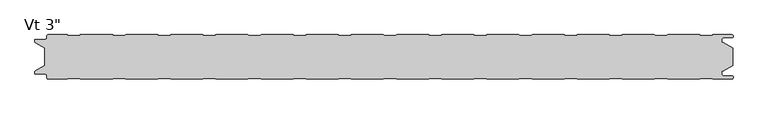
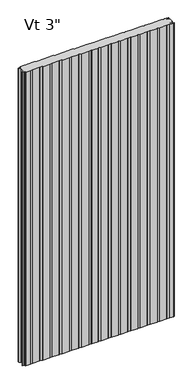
"""IFC4 building model written with IfcOpenShell, lengths in millimetres: plate geometry."""

from ifc_helpers import new_model, si_unit, frame, origin, place, context, project, spatial, polyline, circle_curve, source, transform, mapped, element, save
from ifc_brep_helpers import plane_surface, cylinder_surface, revolved_surface, advanced_brep


def plate_9c2f475c(model_context):
    return source(origin(), model_context, "Body", "AdvancedBrep", [
        advanced_brep(
        [(521.5205195, -74.0088405, 2400.0), (541.3035142, -74.0088405, 2400.0), (542.3760351, -75.1999956, 2400.0), (574.5475652, -75.1999956, 2400.0), (576.5248337, -73.2227271, 2400.0), (576.5248337, -72.1806285, 2400.0), (574.5475652, -70.20336, 2400.0), (560.3591802, -70.20336, 2400.0), (557.7713036, -67.6154835, 2400.0), (557.7713036, -63.2950653, 2400.0), (557.1628365, -62.7060718, 2400.0), (554.7857432, -62.7060718, 2400.0), (554.7857432, -61.7065979, 2400.0), (560.2280123, -61.7065979, 2400.0), (576.2625, -52.4490821, 2400.0), (576.2625, -23.7509179, 2400.0), (560.2280123, -14.4934021, 2400.0), (554.7857432, -14.4934021, 2400.0), (554.7857432, -13.4939282, 2400.0), (557.1628365, -13.4939282, 2400.0), (557.7713036, -12.9049347, 2400.0), (557.7713036, -8.5845165, 2400.0), (560.3591802, -5.99664, 2400.0), (574.5475652, -5.99664, 2400.0), (576.5248337, -4.0193715, 2400.0), (576.5248337, -2.9772729, 2400.0), (574.5475652, -1.0000044, 2400.0), (542.3760351, -1.0000044, 2400.0), (541.3035142, -2.1911595, 2400.0), (521.5205195, -2.1911595, 2400.0), (520.4479947, -1.0, 2400.0), (466.7534187, -1.0, 2400.0), (465.6808939, -2.1911595, 2400.0), (445.8978992, -2.1911595, 2400.0), (444.8253744, -1.0, 2400.0), (391.1307985, -1.0, 2400.0), (390.0582736, -2.1911595, 2400.0), (370.275279, -2.1911595, 2400.0), (369.2027541, -1.0, 2400.0), (315.5081782, -1.0, 2400.0), (314.4356534, -2.1911595, 2400.0), (294.6526587, -2.1911595, 2400.0), (293.5801339, -1.0, 2400.0), (239.885558, -1.0, 2400.0), (238.8130331, -2.1911595, 2400.0), (219.0300384, -2.1911595, 2400.0), (217.9575136, -1.0, 2400.0), (164.2629377, -1.0, 2400.0), (163.1904129, -2.1911595, 2400.0), (143.4074182, -2.1911595, 2400.0), (142.3348933, -1.0, 2400.0), (88.6403174, -1.0, 2400.0), (87.5677926, -2.1911595, 2400.0), (67.7847979, -2.1911595, 2400.0), (66.7122731, -1.0, 2400.0), (13.0176972, -1.0, 2400.0), (11.9451723, -2.1911595, 2400.0), (-7.8378224, -2.1911595, 2400.0), (-8.9103472, -1.0, 2400.0), (-62.6049231, -1.0, 2400.0), (-63.6774479, -2.1911595, 2400.0), (-83.4604426, -2.1911595, 2400.0), (-84.5329675, -1.0, 2400.0), (-138.2275434, -1.0, 2400.0), (-139.3000682, -2.1911595, 2400.0), (-159.0830629, -2.1911595, 2400.0), (-160.1555877, -1.0, 2400.0), (-213.8501636, -1.0, 2400.0), (-214.9226885, -2.1911595, 2400.0), (-234.7056831, -2.1911595, 2400.0), (-235.778208, -1.0, 2400.0), (-289.4727839, -1.0, 2400.0), (-290.5453087, -2.1911595, 2400.0), (-310.3283034, -2.1911595, 2400.0), (-311.4008282, -1.0, 2400.0), (-365.0954042, -1.0, 2400.0), (-366.167929, -2.1911595, 2400.0), (-385.9509237, -2.1911595, 2400.0), (-387.0234485, -1.0, 2400.0), (-440.7180244, -1.0, 2400.0), (-441.7905493, -2.1911595, 2400.0), (-461.5735439, -2.1911595, 2400.0), (-462.6460688, -1.0, 2400.0), (-516.3406447, -1.0, 2400.0), (-517.4131695, -2.1911595, 2400.0), (-537.1961642, -2.1911595, 2400.0), (-538.268689, -1.0000109, 2400.0), (-570.4352761, -1.0000109, 2400.0), (-572.4125501, -2.9772849, 2400.0), (-572.4125501, -5.2691749, 2400.0), (-576.3898173, -9.246442, 2400.0), (-591.9862417, -9.246442, 2400.0), (-592.5741186, -9.8343189, 2400.0), (-592.5741186, -12.9058679, 2400.0), (-591.986242, -13.4937446, 2400.0), (-589.6312064, -13.4937446, 2400.0), (-589.6312064, -14.4937446, 2400.0), (-591.9207851, -14.4937446, 2400.0), (-576.2625, -23.7509179, 2400.0), (-576.2625, -52.4490865, 2400.0), (-591.9207851, -61.7062554, 2400.0), (-589.6312064, -61.7062554, 2400.0), (-589.6312064, -62.7062554, 2400.0), (-591.986242, -62.7062554, 2400.0), (-592.5741186, -63.2941321, 2400.0), (-592.5741186, -66.3656811, 2400.0), (-591.9862417, -66.953558, 2400.0), (-576.3898173, -66.953558, 2400.0), (-572.4125501, -70.9308251, 2400.0), (-572.4125501, -73.2227151, 2400.0), (-570.4352761, -75.1999891, 2400.0), (-538.268689, -75.1999891, 2400.0), (-537.1961642, -74.0088405, 2400.0), (-517.4131695, -74.0088405, 2400.0), (-516.3406447, -75.2, 2400.0), (-462.6460688, -75.2, 2400.0), (-461.5735439, -74.0088405, 2400.0), (-441.7905493, -74.0088405, 2400.0), (-440.7180244, -75.2, 2400.0), (-387.0234485, -75.2, 2400.0), (-385.9509237, -74.0088405, 2400.0), (-366.167929, -74.0088405, 2400.0), (-365.0954042, -75.2, 2400.0), (-311.4008282, -75.2, 2400.0), (-310.3283034, -74.0088405, 2400.0), (-290.5453087, -74.0088405, 2400.0), (-289.4727839, -75.2, 2400.0), (-235.778208, -75.2, 2400.0), (-234.7056831, -74.0088405, 2400.0), (-214.9226885, -74.0088405, 2400.0), (-213.8501636, -75.2, 2400.0), (-160.1555877, -75.2, 2400.0), (-159.0830629, -74.0088405, 2400.0), (-139.3000682, -74.0088405, 2400.0), (-138.2275434, -75.2, 2400.0), (-84.5329675, -75.2, 2400.0), (-83.4604426, -74.0088405, 2400.0), (-63.6774479, -74.0088405, 2400.0), (-62.6049231, -75.2, 2400.0), (-8.9103472, -75.2, 2400.0), (-7.8378224, -74.0088405, 2400.0), (11.9451723, -74.0088405, 2400.0), (13.0176972, -75.2, 2400.0), (66.7122731, -75.2, 2400.0), (67.7847979, -74.0088405, 2400.0), (87.5677926, -74.0088405, 2400.0), (88.6403174, -75.2, 2400.0), (142.3348933, -75.2, 2400.0), (143.4074182, -74.0088405, 2400.0), (163.1904129, -74.0088405, 2400.0), (164.2629377, -75.2, 2400.0), (217.9575136, -75.2, 2400.0), (219.0300384, -74.0088405, 2400.0), (238.8130331, -74.0088405, 2400.0), (239.885558, -75.2, 2400.0), (293.5801339, -75.2, 2400.0), (294.6526587, -74.0088405, 2400.0), (314.4356534, -74.0088405, 2400.0), (315.5081782, -75.2, 2400.0), (369.2027541, -75.2, 2400.0), (370.275279, -74.0088405, 2400.0), (390.0582736, -74.0088405, 2400.0), (391.1307985, -75.2, 2400.0), (444.8253744, -75.2, 2400.0), (445.8978992, -74.0088405, 2400.0), (465.6808939, -74.0088405, 2400.0), (466.7534187, -75.2, 2400.0), (520.4479947, -75.2, 2400.0), (521.5205195, -74.0088405, 0.0), (520.4479947, -75.2, 0.0), (466.7534187, -75.2, 0.0), (465.6808939, -74.0088405, 0.0), (445.8978992, -74.0088405, 0.0), (444.8253744, -75.2, 0.0), (391.1307985, -75.2, 0.0), (390.0582736, -74.0088405, 0.0), (370.275279, -74.0088405, 0.0), (369.2027541, -75.2, 0.0), (315.5081782, -75.2, 0.0), (314.4356534, -74.0088405, 0.0), (294.6526587, -74.0088405, 0.0), (293.5801339, -75.2, 0.0), (239.885558, -75.2, 0.0), (238.8130331, -74.0088405, 0.0), (219.0300384, -74.0088405, 0.0), (217.9575136, -75.2, 0.0), (164.2629377, -75.2, 0.0), (163.1904129, -74.0088405, 0.0), (143.4074182, -74.0088405, 0.0), (142.3348933, -75.2, 0.0), (88.6403174, -75.2, 0.0), (87.5677926, -74.0088405, 0.0), (67.7847979, -74.0088405, 0.0), (66.7122731, -75.2, 0.0), (13.0176972, -75.2, 0.0), (11.9451723, -74.0088405, 0.0), (-7.8378224, -74.0088405, 0.0), (-8.9103472, -75.2, 0.0), (-62.6049231, -75.2, 0.0), (-63.6774479, -74.0088405, 0.0), (-83.4604426, -74.0088405, 0.0), (-84.5329675, -75.2, 0.0), (-138.2275434, -75.2, 0.0), (-139.3000682, -74.0088405, 0.0), (-159.0830629, -74.0088405, 0.0), (-160.1555877, -75.2, 0.0), (-213.8501636, -75.2, 0.0), (-214.9226885, -74.0088405, 0.0), (-234.7056831, -74.0088405, 0.0), (-235.778208, -75.2, 0.0), (-289.4727839, -75.2, 0.0), (-290.5453087, -74.0088405, 0.0), (-310.3283034, -74.0088405, 0.0), (-311.4008282, -75.2, 0.0), (-365.0954042, -75.2, 0.0), (-366.167929, -74.0088405, 0.0), (-385.9509237, -74.0088405, 0.0), (-387.0234485, -75.2, 0.0), (-440.7180244, -75.2, 0.0), (-441.7905493, -74.0088405, 0.0), (-461.5735439, -74.0088405, 0.0), (-462.6460688, -75.2, 0.0), (-516.3406447, -75.2, 0.0), (-517.4131695, -74.0088405, 0.0), (-537.1961642, -74.0088405, 0.0), (-538.268689, -75.1999891, 0.0), (-570.4352761, -75.1999891, 0.0), (-572.4125501, -73.2227151, 0.0), (-572.4125501, -70.9308251, 0.0), (-576.3898173, -66.953558, 0.0), (-591.9862417, -66.953558, 0.0), (-592.5741186, -66.3656811, 0.0), (-592.5741186, -63.2941321, 0.0), (-591.986242, -62.7062554, 0.0), (-589.6312064, -62.7062554, 0.0), (-589.6312064, -61.7062554, 0.0), (-591.9207851, -61.7062554, 0.0), (-576.2625, -52.4490821, 0.0), (-576.2625, -23.7509179, 0.0), (-591.9207851, -14.4937446, 0.0), (-589.6312064, -14.4937446, 0.0), (-589.6312064, -13.4937446, 0.0), (-591.986242, -13.4937446, 0.0), (-592.5741186, -12.9058679, 0.0), (-592.5741186, -9.8343189, 0.0), (-591.9862417, -9.246442, 0.0), (-576.3898173, -9.246442, 0.0), (-572.4125501, -5.2691749, 0.0), (-572.4125501, -2.9772849, 0.0), (-570.4352761, -1.0000109, 0.0), (-538.268689, -1.0000109, 0.0), (-537.1961642, -2.1911595, 0.0), (-517.4131695, -2.1911595, 0.0), (-516.3406447, -1.0, 0.0), (-462.6460688, -1.0, 0.0), (-461.5735439, -2.1911595, 0.0), (-441.7905493, -2.1911595, 0.0), (-440.7180244, -1.0, 0.0), (-387.0234485, -1.0, 0.0), (-385.9509237, -2.1911595, 0.0), (-366.167929, -2.1911595, 0.0), (-365.0954042, -1.0, 0.0), (-311.4008282, -1.0, 0.0), (-310.3283034, -2.1911595, 0.0), (-290.5453087, -2.1911595, 0.0), (-289.4727839, -1.0, 0.0), (-235.778208, -1.0, 0.0), (-234.7056831, -2.1911595, 0.0), (-214.9226885, -2.1911595, 0.0), (-213.8501636, -1.0, 0.0), (-160.1555877, -1.0, 0.0), (-159.0830629, -2.1911595, 0.0), (-139.3000682, -2.1911595, 0.0), (-138.2275434, -1.0, 0.0), (-84.5329675, -1.0, 0.0), (-83.4604426, -2.1911595, 0.0), (-63.6774479, -2.1911595, 0.0), (-62.6049231, -1.0, 0.0), (-8.9103472, -1.0, 0.0), (-7.8378224, -2.1911595, 0.0), (11.9451723, -2.1911595, 0.0), (13.0176972, -1.0, 0.0), (66.7122731, -1.0, 0.0), (67.7847979, -2.1911595, 0.0), (87.5677926, -2.1911595, 0.0), (88.6403174, -1.0, 0.0), (142.3348933, -1.0, 0.0), (143.4074182, -2.1911595, 0.0), (163.1904129, -2.1911595, 0.0), (164.2629377, -1.0, 0.0), (217.9575136, -1.0, 0.0), (219.0300384, -2.1911595, 0.0), (238.8130331, -2.1911595, 0.0), (239.885558, -1.0, 0.0), (293.5801339, -1.0, 0.0), (294.6526587, -2.1911595, 0.0), (314.4356534, -2.1911595, 0.0), (315.5081782, -1.0, 0.0), (369.2027541, -1.0, 0.0), (370.275279, -2.1911595, 0.0), (390.0582736, -2.1911595, 0.0), (391.1307985, -1.0, 0.0), (444.8253744, -1.0, 0.0), (445.8978992, -2.1911595, 0.0), (465.6808939, -2.1911595, 0.0), (466.7534187, -1.0, 0.0), (520.4479947, -1.0, 0.0), (521.5205195, -2.1911595, 0.0), (541.3035142, -2.1911595, 0.0), (542.3760351, -1.0000044, 0.0), (574.5475652, -1.0000044, 0.0), (576.5248337, -2.9772729, 0.0), (576.5248337, -4.0193715, 0.0), (574.5475652, -5.99664, 0.0), (560.3591802, -5.99664, 0.0), (557.7713036, -8.5845165, 0.0), (557.7713036, -12.9049347, 0.0), (557.1628365, -13.4939282, 0.0), (554.7857432, -13.4939282, 0.0), (554.7857432, -14.4934021, 0.0), (560.2280123, -14.4934021, 0.0), (576.2625, -23.7509179, 0.0), (576.2625, -52.4490865, 0.0), (560.2280123, -61.7065979, 0.0), (554.7857432, -61.7065979, 0.0), (554.7857432, -62.7060718, 0.0), (557.1628365, -62.7060718, 0.0), (557.7713036, -63.2950653, 0.0), (557.7713036, -67.6154835, 0.0), (560.3591802, -70.20336, 0.0), (574.5475652, -70.20336, 0.0), (576.5248337, -72.1806285, 0.0), (576.5248337, -73.2227271, 0.0), (574.5475652, -75.1999956, 0.0), (542.3760351, -75.1999956, 0.0), (541.3035142, -74.0088405, 0.0)],
        [
            (0, 1),
            (1, 2),
            (2, 3),
            (3, 4, circle_curve(frame((574.5475652, -73.2227271, 2400.0), z_axis=(0.0, 0.0, 1.0), x_axis=(-1.0, 0.0, 0.0)), 1.9772685)),
            (4, 5),
            (5, 6, circle_curve(frame((574.5475652, -72.1806285, 2400.0), z_axis=(0.0, 0.0, 1.0), x_axis=(-1.0, 0.0, 0.0)), 1.9772685)),
            (6, 7),
            (7, 8, circle_curve(frame((560.3591802, -67.6154835, 2400.0), z_axis=(0.0, 0.0, -1.0), x_axis=(-1.0, 0.0, 0.0)), 2.5878765)),
            (8, 9),
            (9, 10, circle_curve(frame((557.1819985, -63.2950653, 2400.0), z_axis=(0.0, 0.0, 1.0), x_axis=(-1.0, 0.0, 0.0)), 0.5893051)),
            (10, 11),
            (11, 12),
            (12, 13),
            (13, 14),
            (14, 15),
            (15, 16),
            (16, 17),
            (17, 18),
            (18, 19),
            (19, 20, circle_curve(frame((557.1819985, -12.9049347, 2400.0), z_axis=(0.0, 0.0, 1.0), x_axis=(0.0, 1.0, 0.0)), 0.5893051)),
            (20, 21),
            (21, 22, circle_curve(frame((560.3591802, -8.5845165, 2400.0), z_axis=(0.0, 0.0, -1.0), x_axis=(0.0, 1.0, 0.0)), 2.5878765)),
            (22, 23),
            (23, 24, circle_curve(frame((574.5475652, -4.0193715, 2400.0), z_axis=(0.0, 0.0, 1.0), x_axis=(0.0, 1.0, 0.0)), 1.9772685)),
            (24, 25),
            (25, 26, circle_curve(frame((574.5475652, -2.9772729, 2400.0), z_axis=(0.0, 0.0, 1.0), x_axis=(0.0, 1.0, 0.0)), 1.9772685)),
            (26, 27),
            (27, 28),
            (28, 29),
            (29, 30),
            (30, 31),
            (31, 32),
            (32, 33),
            (33, 34),
            (34, 35),
            (35, 36),
            (36, 37),
            (37, 38),
            (38, 39),
            (39, 40),
            (40, 41),
            (41, 42),
            (42, 43),
            (43, 44),
            (44, 45),
            (45, 46),
            (46, 47),
            (47, 48),
            (48, 49),
            (49, 50),
            (50, 51),
            (51, 52),
            (52, 53),
            (53, 54),
            (54, 55),
            (55, 56),
            (56, 57),
            (57, 58),
            (58, 59),
            (59, 60),
            (60, 61),
            (61, 62),
            (62, 63),
            (63, 64),
            (64, 65),
            (65, 66),
            (66, 67),
            (67, 68),
            (68, 69),
            (69, 70),
            (70, 71),
            (71, 72),
            (72, 73),
            (73, 74),
            (74, 75),
            (75, 76),
            (76, 77),
            (77, 78),
            (78, 79),
            (79, 80),
            (80, 81),
            (81, 82),
            (82, 83),
            (83, 84),
            (84, 85),
            (85, 86),
            (86, 87),
            (87, 88, circle_curve(frame((-570.4352761, -2.9772849, 2400.0), z_axis=(0.0, 0.0, 1.0), x_axis=(0.0, 1.0, 0.0)), 1.977274)),
            (88, 89),
            (89, 90, circle_curve(frame((-576.3898173, -5.2691749, 2400.0), z_axis=(0.0, 0.0, -1.0), x_axis=(0.0, 1.0, 0.0)), 3.9772671)),
            (90, 91),
            (91, 92, circle_curve(frame((-591.9862417, -9.8343189, 2400.0), z_axis=(0.0, 0.0, 1.0), x_axis=(0.0, 1.0, 0.0)), 0.5878769)),
            (92, 93),
            (93, 94, circle_curve(frame((-591.986242, -12.9058679, 2400.0), z_axis=(0.0, 0.0, 1.0), x_axis=(0.0, 1.0, 0.0)), 0.5878766)),
            (94, 95),
            (95, 96),
            (96, 97),
            (97, 98),
            (98, 99),
            (99, 100),
            (100, 101),
            (101, 102),
            (102, 103),
            (103, 104, circle_curve(frame((-591.986242, -63.2941321, 2400.0), z_axis=(0.0, 0.0, 1.0), x_axis=(-1.0, 0.0, 0.0)), 0.5878766)),
            (104, 105),
            (105, 106, circle_curve(frame((-591.9862417, -66.3656811, 2400.0), z_axis=(0.0, 0.0, 1.0), x_axis=(-1.0, 0.0, 0.0)), 0.5878769)),
            (106, 107),
            (107, 108, circle_curve(frame((-576.3898173, -70.9308251, 2400.0), z_axis=(0.0, 0.0, -1.0), x_axis=(-1.0, 0.0, 0.0)), 3.9772671)),
            (108, 109),
            (109, 110, circle_curve(frame((-570.4352761, -73.2227151, 2400.0), z_axis=(0.0, 0.0, 1.0), x_axis=(-1.0, 0.0, 0.0)), 1.977274)),
            (110, 111),
            (111, 112),
            (112, 113),
            (113, 114),
            (114, 115),
            (115, 116),
            (116, 117),
            (117, 118),
            (118, 119),
            (119, 120),
            (120, 121),
            (121, 122),
            (122, 123),
            (123, 124),
            (124, 125),
            (125, 126),
            (126, 127),
            (127, 128),
            (128, 129),
            (129, 130),
            (130, 131),
            (131, 132),
            (132, 133),
            (133, 134),
            (134, 135),
            (135, 136),
            (136, 137),
            (137, 138),
            (138, 139),
            (139, 140),
            (140, 141),
            (141, 142),
            (142, 143),
            (143, 144),
            (144, 145),
            (145, 146),
            (146, 147),
            (147, 148),
            (148, 149),
            (149, 150),
            (150, 151),
            (151, 152),
            (152, 153),
            (153, 154),
            (154, 155),
            (155, 156),
            (156, 157),
            (157, 158),
            (158, 159),
            (159, 160),
            (160, 161),
            (161, 162),
            (162, 163),
            (163, 164),
            (164, 165),
            (165, 166),
            (166, 167),
            (167, 0),
            (168, 169),
            (169, 170),
            (170, 171),
            (171, 172),
            (172, 173),
            (173, 174),
            (174, 175),
            (175, 176),
            (176, 177),
            (177, 178),
            (178, 179),
            (179, 180),
            (180, 181),
            (181, 182),
            (182, 183),
            (183, 184),
            (184, 185),
            (185, 186),
            (186, 187),
            (187, 188),
            (188, 189),
            (189, 190),
            (190, 191),
            (191, 192),
            (192, 193),
            (193, 194),
            (194, 195),
            (195, 196),
            (196, 197),
            (197, 198),
            (198, 199),
            (199, 200),
            (200, 201),
            (201, 202),
            (202, 203),
            (203, 204),
            (204, 205),
            (205, 206),
            (206, 207),
            (207, 208),
            (208, 209),
            (209, 210),
            (210, 211),
            (211, 212),
            (212, 213),
            (213, 214),
            (214, 215),
            (215, 216),
            (216, 217),
            (217, 218),
            (218, 219),
            (219, 220),
            (220, 221),
            (221, 222),
            (222, 223),
            (223, 224),
            (224, 225),
            (225, 226),
            (226, 227, circle_curve(frame((-570.4352761, -73.2227151, 0.0), z_axis=(0.0, 0.0, -1.0), x_axis=(-1.0, 0.0, 0.0)), 1.977274)),
            (227, 228),
            (228, 229, circle_curve(frame((-576.3898173, -70.9308251, 0.0), z_axis=(0.0, 0.0, 1.0), x_axis=(-1.0, 0.0, 0.0)), 3.9772671)),
            (229, 230),
            (230, 231, circle_curve(frame((-591.9862417, -66.3656811, 0.0), z_axis=(0.0, 0.0, -1.0), x_axis=(-1.0, 0.0, 0.0)), 0.5878769)),
            (231, 232),
            (232, 233, circle_curve(frame((-591.986242, -63.2941321, 0.0), z_axis=(0.0, 0.0, -1.0), x_axis=(-1.0, 0.0, 0.0)), 0.5878766)),
            (233, 234),
            (234, 235),
            (235, 236),
            (236, 237),
            (237, 238),
            (238, 239),
            (239, 240),
            (240, 241),
            (241, 242),
            (242, 243, circle_curve(frame((-591.986242, -12.9058679, 0.0), z_axis=(0.0, 0.0, -1.0), x_axis=(0.0, 1.0, 0.0)), 0.5878766)),
            (243, 244),
            (244, 245, circle_curve(frame((-591.9862417, -9.8343189, 0.0), z_axis=(0.0, 0.0, -1.0), x_axis=(0.0, 1.0, 0.0)), 0.5878769)),
            (245, 246),
            (246, 247, circle_curve(frame((-576.3898173, -5.2691749, 0.0), z_axis=(0.0, 0.0, 1.0), x_axis=(0.0, 1.0, 0.0)), 3.9772671)),
            (247, 248),
            (248, 249, circle_curve(frame((-570.4352761, -2.9772849, 0.0), z_axis=(0.0, 0.0, -1.0), x_axis=(0.0, 1.0, 0.0)), 1.977274)),
            (249, 250),
            (250, 251),
            (251, 252),
            (252, 253),
            (253, 254),
            (254, 255),
            (255, 256),
            (256, 257),
            (257, 258),
            (258, 259),
            (259, 260),
            (260, 261),
            (261, 262),
            (262, 263),
            (263, 264),
            (264, 265),
            (265, 266),
            (266, 267),
            (267, 268),
            (268, 269),
            (269, 270),
            (270, 271),
            (271, 272),
            (272, 273),
            (273, 274),
            (274, 275),
            (275, 276),
            (276, 277),
            (277, 278),
            (278, 279),
            (279, 280),
            (280, 281),
            (281, 282),
            (282, 283),
            (283, 284),
            (284, 285),
            (285, 286),
            (286, 287),
            (287, 288),
            (288, 289),
            (289, 290),
            (290, 291),
            (291, 292),
            (292, 293),
            (293, 294),
            (294, 295),
            (295, 296),
            (296, 297),
            (297, 298),
            (298, 299),
            (299, 300),
            (300, 301),
            (301, 302),
            (302, 303),
            (303, 304),
            (304, 305),
            (305, 306),
            (306, 307),
            (307, 308),
            (308, 309),
            (309, 310),
            (310, 311, circle_curve(frame((574.5475652, -2.9772729, 0.0), z_axis=(0.0, 0.0, -1.0), x_axis=(0.0, 1.0, 0.0)), 1.9772685)),
            (311, 312),
            (312, 313, circle_curve(frame((574.5475652, -4.0193715, 0.0), z_axis=(0.0, 0.0, -1.0), x_axis=(0.0, 1.0, 0.0)), 1.9772685)),
            (313, 314),
            (314, 315, circle_curve(frame((560.3591802, -8.5845165, 0.0), z_axis=(0.0, 0.0, 1.0), x_axis=(0.0, 1.0, 0.0)), 2.5878765)),
            (315, 316),
            (316, 317, circle_curve(frame((557.1819985, -12.9049347, 0.0), z_axis=(0.0, 0.0, -1.0), x_axis=(0.0, 1.0, 0.0)), 0.5893051)),
            (317, 318),
            (318, 319),
            (319, 320),
            (320, 321),
            (321, 322),
            (322, 323),
            (323, 324),
            (324, 325),
            (325, 326),
            (326, 327, circle_curve(frame((557.1819985, -63.2950653, 0.0), z_axis=(0.0, 0.0, -1.0), x_axis=(-1.0, 0.0, 0.0)), 0.5893051)),
            (327, 328),
            (328, 329, circle_curve(frame((560.3591802, -67.6154835, 0.0), z_axis=(0.0, 0.0, 1.0), x_axis=(-1.0, 0.0, 0.0)), 2.5878765)),
            (329, 330),
            (330, 331, circle_curve(frame((574.5475652, -72.1806285, 0.0), z_axis=(0.0, 0.0, -1.0), x_axis=(-1.0, 0.0, 0.0)), 1.9772685)),
            (331, 332),
            (332, 333, circle_curve(frame((574.5475652, -73.2227271, 0.0), z_axis=(0.0, 0.0, -1.0), x_axis=(-1.0, 0.0, 0.0)), 1.9772685)),
            (333, 334),
            (334, 335),
            (335, 168),
            (98, 238),
            (237, 99),
            (14, 322),
            (321, 15),
            (28, 308),
            (307, 29),
            (27, 309),
            (26, 310),
            (25, 311),
            (24, 312),
            (23, 313),
            (22, 314),
            (21, 315),
            (20, 316),
            (19, 317),
            (18, 318),
            (17, 319),
            (16, 320),
            (97, 239),
            (96, 240),
            (95, 241),
            (94, 242),
            (93, 243),
            (92, 244),
            (91, 245),
            (90, 246),
            (89, 247),
            (88, 248),
            (87, 249),
            (86, 250),
            (85, 251),
            (84, 252),
            (83, 253),
            (82, 254),
            (81, 255),
            (80, 256),
            (79, 257),
            (78, 258),
            (77, 259),
            (76, 260),
            (75, 261),
            (74, 262),
            (73, 263),
            (72, 264),
            (71, 265),
            (70, 266),
            (69, 267),
            (68, 268),
            (67, 269),
            (66, 270),
            (65, 271),
            (64, 272),
            (63, 273),
            (62, 274),
            (61, 275),
            (60, 276),
            (59, 277),
            (58, 278),
            (57, 279),
            (56, 280),
            (55, 281),
            (54, 282),
            (53, 283),
            (52, 284),
            (51, 285),
            (50, 286),
            (49, 287),
            (48, 288),
            (47, 289),
            (46, 290),
            (45, 291),
            (44, 292),
            (43, 293),
            (42, 294),
            (41, 295),
            (40, 296),
            (39, 297),
            (38, 298),
            (37, 299),
            (36, 300),
            (35, 301),
            (34, 302),
            (33, 303),
            (32, 304),
            (31, 305),
            (30, 306),
            (167, 169),
            (168, 0),
            (166, 170),
            (165, 171),
            (164, 172),
            (163, 173),
            (162, 174),
            (161, 175),
            (160, 176),
            (159, 177),
            (158, 178),
            (157, 179),
            (156, 180),
            (155, 181),
            (154, 182),
            (153, 183),
            (152, 184),
            (151, 185),
            (150, 186),
            (149, 187),
            (148, 188),
            (147, 189),
            (146, 190),
            (145, 191),
            (144, 192),
            (143, 193),
            (142, 194),
            (141, 195),
            (140, 196),
            (139, 197),
            (138, 198),
            (137, 199),
            (136, 200),
            (135, 201),
            (134, 202),
            (133, 203),
            (132, 204),
            (131, 205),
            (130, 206),
            (129, 207),
            (128, 208),
            (127, 209),
            (126, 210),
            (125, 211),
            (124, 212),
            (123, 213),
            (122, 214),
            (121, 215),
            (120, 216),
            (119, 217),
            (118, 218),
            (117, 219),
            (116, 220),
            (115, 221),
            (114, 222),
            (113, 223),
            (112, 224),
            (111, 225),
            (110, 226),
            (109, 227),
            (108, 228),
            (107, 229),
            (106, 230),
            (105, 231),
            (104, 232),
            (103, 233),
            (102, 234),
            (101, 235),
            (100, 236),
            (13, 323),
            (12, 324),
            (11, 325),
            (10, 326),
            (9, 327),
            (8, 328),
            (7, 329),
            (6, 330),
            (5, 331),
            (4, 332),
            (3, 333),
            (2, 334),
            (1, 335),
        ],
        [
            plane_surface(frame((0.0, -75.2, 2400.0), z_axis=(0.0, 0.0, 1.0), x_axis=(0.0, -1.0, 0.0))),
            plane_surface(frame((0.0, -75.2, 0.0), z_axis=(0.0, 0.0, -1.0), x_axis=(0.0, -1.0, 0.0))),
            plane_surface(frame((-576.2625, -52.4490865, 2400.0), z_axis=(-1.0, 0.0, 0.0), x_axis=(0.0, 0.0, -1.0))),
            plane_surface(frame((576.2625, -23.7509179, 2400.0), z_axis=(1.0, 0.0, 0.0), x_axis=(0.0, 0.0, -1.0))),
            plane_surface(frame((521.5205195, -2.1911595, 2400.0), z_axis=(0.0, 1.0, 0.0), x_axis=(0.0, 0.0, -1.0))),
            plane_surface(frame((541.3035142, -2.1911595, 2400.0), z_axis=(-0.7431448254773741, 0.6691306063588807, 0.0), x_axis=(0.0, 0.0, -1.0))),
            plane_surface(frame((542.3760351, -1.0000044, 2400.0), z_axis=(0.0, 1.0, 0.0), x_axis=(0.0, 0.0, -1.0))),
            cylinder_surface(frame((574.5475652, -2.9772729, 2400.0), z_axis=(0.0, 0.0, 1.0), x_axis=(0.0, 1.0, 0.0)), 1.9772685),
            plane_surface(frame((576.5248337, -2.9772729, 2400.0), z_axis=(1.0, 0.0, 0.0), x_axis=(0.0, 0.0, -1.0))),
            cylinder_surface(frame((574.5475652, -4.0193715, 2400.0), z_axis=(0.0, 0.0, 1.0), x_axis=(0.0, 1.0, 0.0)), 1.9772685),
            plane_surface(frame((574.5475652, -5.99664, 2400.0), z_axis=(0.0, -1.0, 0.0), x_axis=(0.0, 0.0, -1.0))),
            revolved_surface(polyline([(560.3591802, -5.996639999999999, 0.0), (560.3591802, -5.996639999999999, 2400.0)]), (560.3591802, -8.5845165, 2400.0), (0.0, 0.0, -1.0)),
            plane_surface(frame((557.7713036, -8.5845165, 2400.0), z_axis=(1.0, 0.0, 0.0), x_axis=(0.0, 0.0, -1.0))),
            cylinder_surface(frame((557.1819985, -12.9049347, 2400.0), z_axis=(0.0, 0.0, 1.0), x_axis=(0.0, 1.0, 0.0)), 0.5893051),
            plane_surface(frame((557.1628365, -13.4939282, 2400.0), z_axis=(0.0, -1.0, 0.0), x_axis=(0.0, 0.0, -1.0))),
            plane_surface(frame((554.7857432, -13.4939282, 2400.0), z_axis=(1.0, 0.0, 0.0), x_axis=(0.0, 0.0, -1.0))),
            plane_surface(frame((554.7857432, -14.4934021, 2400.0), z_axis=(0.0, 1.0, 0.0), x_axis=(0.0, 0.0, -1.0))),
            plane_surface(frame((560.2280123, -14.4934021, 2400.0), z_axis=(0.5000000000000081, 0.866025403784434, 0.0), x_axis=(0.0, 0.0, -1.0))),
            plane_surface(frame((-576.2625, -23.7509179, 2400.0), z_axis=(-0.5089147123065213, -0.860816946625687, 0.0), x_axis=(0.0, 0.0, -1.0))),
            plane_surface(frame((-591.9207851, -14.4937446, 2400.0), z_axis=(0.0, 1.0, 0.0), x_axis=(0.0, 0.0, -1.0))),
            plane_surface(frame((-589.6312064, -14.4937446, 2400.0), z_axis=(-1.0, 0.0, 0.0), x_axis=(0.0, 0.0, -1.0))),
            plane_surface(frame((-589.6312064, -13.4937446, 2400.0), z_axis=(0.0, -1.0, 0.0), x_axis=(0.0, 0.0, -1.0))),
            cylinder_surface(frame((-591.986242, -12.9058679, 2400.0), z_axis=(0.0, 0.0, 1.0), x_axis=(0.0, 1.0, 0.0)), 0.5878766),
            plane_surface(frame((-592.5741186, -12.9058679, 2400.0), z_axis=(-1.0, 0.0, 0.0), x_axis=(0.0, 0.0, -1.0))),
            cylinder_surface(frame((-591.9862417, -9.8343189, 2400.0), z_axis=(0.0, 0.0, 1.0), x_axis=(0.0, 1.0, 0.0)), 0.5878769),
            plane_surface(frame((-591.9862417, -9.246442, 2400.0), z_axis=(0.0, 1.0, 0.0), x_axis=(0.0, 0.0, -1.0))),
            revolved_surface(polyline([(-576.3898173, -1.2919078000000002, 0.0), (-576.3898173, -1.2919078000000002, 2400.0)]), (-576.3898173, -5.2691749, 2400.0), (0.0, 0.0, -1.0)),
            plane_surface(frame((-572.4125501, -5.2691749, 2400.0), z_axis=(-1.0, 0.0, 0.0), x_axis=(0.0, 0.0, -1.0))),
            cylinder_surface(frame((-570.4352761, -2.9772849, 2400.0), z_axis=(0.0, 0.0, 1.0), x_axis=(0.0, 1.0, 0.0)), 1.977274),
            plane_surface(frame((-570.4352761, -1.0000109, 2400.0), z_axis=(0.0, 1.0, 0.0), x_axis=(0.0, 0.0, -1.0))),
            plane_surface(frame((-538.268689, -1.0000109, 2400.0), z_axis=(0.7431417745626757, 0.669133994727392, 0.0), x_axis=(0.0, 0.0, -1.0))),
            plane_surface(frame((-537.1961642, -2.1911595, 2400.0), z_axis=(0.0, 1.0, 0.0), x_axis=(0.0, 0.0, -1.0))),
            plane_surface(frame((-517.4131695, -2.1911595, 2400.0), z_axis=(-0.7431448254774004, 0.6691306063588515, 0.0), x_axis=(0.0, 0.0, -1.0))),
            plane_surface(frame((-516.3406447, -1.0, 2400.0), z_axis=(0.0, 1.0, 0.0), x_axis=(0.0, 0.0, -1.0))),
            plane_surface(frame((-462.6460688, -1.0, 2400.0), z_axis=(0.7431448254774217, 0.6691306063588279, 0.0), x_axis=(0.0, 0.0, -1.0))),
            plane_surface(frame((-461.5735439, -2.1911595, 2400.0), z_axis=(0.0, 1.0, 0.0), x_axis=(0.0, 0.0, -1.0))),
            plane_surface(frame((-441.7905493, -2.1911595, 2400.0), z_axis=(-0.7431448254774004, 0.6691306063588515, 0.0), x_axis=(0.0, 0.0, -1.0))),
            plane_surface(frame((-440.7180244, -1.0, 2400.0), z_axis=(0.0, 1.0, 0.0), x_axis=(0.0, 0.0, -1.0))),
            plane_surface(frame((-387.0234485, -1.0, 2400.0), z_axis=(0.7431448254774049, 0.6691306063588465, 0.0), x_axis=(0.0, 0.0, -1.0))),
            plane_surface(frame((-385.9509237, -2.1911595, 2400.0), z_axis=(0.0, 1.0, 0.0), x_axis=(0.0, 0.0, -1.0))),
            plane_surface(frame((-366.167929, -2.1911595, 2400.0), z_axis=(-0.7431448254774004, 0.6691306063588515, 0.0), x_axis=(0.0, 0.0, -1.0))),
            plane_surface(frame((-365.0954042, -1.0, 2400.0), z_axis=(0.0, 1.0, 0.0), x_axis=(0.0, 0.0, -1.0))),
            plane_surface(frame((-311.4008282, -1.0, 2400.0), z_axis=(0.7431448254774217, 0.6691306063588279, 0.0), x_axis=(0.0, 0.0, -1.0))),
            plane_surface(frame((-310.3283034, -2.1911595, 2400.0), z_axis=(0.0, 1.0, 0.0), x_axis=(0.0, 0.0, -1.0))),
            plane_surface(frame((-290.5453087, -2.1911595, 2400.0), z_axis=(-0.7431448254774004, 0.6691306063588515, 0.0), x_axis=(0.0, 0.0, -1.0))),
            plane_surface(frame((-289.4727839, -1.0, 2400.0), z_axis=(0.0, 1.0, 0.0), x_axis=(0.0, 0.0, -1.0))),
            plane_surface(frame((-235.778208, -1.0, 2400.0), z_axis=(0.7431448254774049, 0.6691306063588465, 0.0), x_axis=(0.0, 0.0, -1.0))),
            plane_surface(frame((-234.7056831, -2.1911595, 2400.0), z_axis=(0.0, 1.0, 0.0), x_axis=(0.0, 0.0, -1.0))),
            plane_surface(frame((-214.9226885, -2.1911595, 2400.0), z_axis=(-0.7431448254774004, 0.6691306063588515, 0.0), x_axis=(0.0, 0.0, -1.0))),
            plane_surface(frame((-213.8501636, -1.0, 2400.0), z_axis=(0.0, 1.0, 0.0), x_axis=(0.0, 0.0, -1.0))),
            plane_surface(frame((-160.1555877, -1.0, 2400.0), z_axis=(0.7431448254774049, 0.6691306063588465, 0.0), x_axis=(0.0, 0.0, -1.0))),
            plane_surface(frame((-159.0830629, -2.1911595, 2400.0), z_axis=(0.0, 1.0, 0.0), x_axis=(0.0, 0.0, -1.0))),
            plane_surface(frame((-139.3000682, -2.1911595, 2400.0), z_axis=(-0.7431448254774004, 0.6691306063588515, 0.0), x_axis=(0.0, 0.0, -1.0))),
            plane_surface(frame((-138.2275434, -1.0, 2400.0), z_axis=(0.0, 1.0, 0.0), x_axis=(0.0, 0.0, -1.0))),
            plane_surface(frame((-84.5329675, -1.0, 2400.0), z_axis=(0.7431448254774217, 0.6691306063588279, 0.0), x_axis=(0.0, 0.0, -1.0))),
            plane_surface(frame((-83.4604426, -2.1911595, 2400.0), z_axis=(0.0, 1.0, 0.0), x_axis=(0.0, 0.0, -1.0))),
            plane_surface(frame((-63.6774479, -2.1911595, 2400.0), z_axis=(-0.7431448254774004, 0.6691306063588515, 0.0), x_axis=(0.0, 0.0, -1.0))),
            plane_surface(frame((-62.6049231, -1.0, 2400.0), z_axis=(0.0, 1.0, 0.0), x_axis=(0.0, 0.0, -1.0))),
            plane_surface(frame((-8.9103472, -1.0, 2400.0), z_axis=(0.7431448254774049, 0.6691306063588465, 0.0), x_axis=(0.0, 0.0, -1.0))),
            plane_surface(frame((-7.8378224, -2.1911595, 2400.0), z_axis=(0.0, 1.0, 0.0), x_axis=(0.0, 0.0, -1.0))),
            plane_surface(frame((11.9451723, -2.1911595, 2400.0), z_axis=(-0.7431448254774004, 0.6691306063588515, 0.0), x_axis=(0.0, 0.0, -1.0))),
            plane_surface(frame((13.0176972, -1.0, 2400.0), z_axis=(0.0, 1.0, 0.0), x_axis=(0.0, 0.0, -1.0))),
            plane_surface(frame((66.7122731, -1.0, 2400.0), z_axis=(0.7431448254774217, 0.6691306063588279, 0.0), x_axis=(0.0, 0.0, -1.0))),
            plane_surface(frame((67.7847979, -2.1911595, 2400.0), z_axis=(0.0, 1.0, 0.0), x_axis=(0.0, 0.0, -1.0))),
            plane_surface(frame((87.5677926, -2.1911595, 2400.0), z_axis=(-0.7431448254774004, 0.6691306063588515, 0.0), x_axis=(0.0, 0.0, -1.0))),
            plane_surface(frame((88.6403174, -1.0, 2400.0), z_axis=(0.0, 1.0, 0.0), x_axis=(0.0, 0.0, -1.0))),
            plane_surface(frame((142.3348933, -1.0, 2400.0), z_axis=(0.7431448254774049, 0.6691306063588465, 0.0), x_axis=(0.0, 0.0, -1.0))),
            plane_surface(frame((143.4074182, -2.1911595, 2400.0), z_axis=(0.0, 1.0, 0.0), x_axis=(0.0, 0.0, -1.0))),
            plane_surface(frame((163.1904129, -2.1911595, 2400.0), z_axis=(-0.7431448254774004, 0.6691306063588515, 0.0), x_axis=(0.0, 0.0, -1.0))),
            plane_surface(frame((164.2629377, -1.0, 2400.0), z_axis=(0.0, 1.0, 0.0), x_axis=(0.0, 0.0, -1.0))),
            plane_surface(frame((217.9575136, -1.0, 2400.0), z_axis=(0.7431448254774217, 0.6691306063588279, 0.0), x_axis=(0.0, 0.0, -1.0))),
            plane_surface(frame((219.0300384, -2.1911595, 2400.0), z_axis=(0.0, 1.0, 0.0), x_axis=(0.0, 0.0, -1.0))),
            plane_surface(frame((238.8130331, -2.1911595, 2400.0), z_axis=(-0.7431448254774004, 0.6691306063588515, 0.0), x_axis=(0.0, 0.0, -1.0))),
            plane_surface(frame((239.885558, -1.0, 2400.0), z_axis=(0.0, 1.0, 0.0), x_axis=(0.0, 0.0, -1.0))),
            plane_surface(frame((293.5801339, -1.0, 2400.0), z_axis=(0.7431448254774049, 0.6691306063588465, 0.0), x_axis=(0.0, 0.0, -1.0))),
            plane_surface(frame((294.6526587, -2.1911595, 2400.0), z_axis=(0.0, 1.0, 0.0), x_axis=(0.0, 0.0, -1.0))),
            plane_surface(frame((314.4356534, -2.1911595, 2400.0), z_axis=(-0.7431448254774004, 0.6691306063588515, 0.0), x_axis=(0.0, 0.0, -1.0))),
            plane_surface(frame((315.5081782, -1.0, 2400.0), z_axis=(0.0, 1.0, 0.0), x_axis=(0.0, 0.0, -1.0))),
            plane_surface(frame((369.2027541, -1.0, 2400.0), z_axis=(0.7431448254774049, 0.6691306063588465, 0.0), x_axis=(0.0, 0.0, -1.0))),
            plane_surface(frame((370.275279, -2.1911595, 2400.0), z_axis=(0.0, 1.0, 0.0), x_axis=(0.0, 0.0, -1.0))),
            plane_surface(frame((390.0582736, -2.1911595, 2400.0), z_axis=(-0.7431448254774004, 0.6691306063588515, 0.0), x_axis=(0.0, 0.0, -1.0))),
            plane_surface(frame((391.1307985, -1.0, 2400.0), z_axis=(0.0, 1.0, 0.0), x_axis=(0.0, 0.0, -1.0))),
            plane_surface(frame((444.8253744, -1.0, 2400.0), z_axis=(0.7431448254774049, 0.6691306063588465, 0.0), x_axis=(0.0, 0.0, -1.0))),
            plane_surface(frame((445.8978992, -2.1911595, 2400.0), z_axis=(0.0, 1.0, 0.0), x_axis=(0.0, 0.0, -1.0))),
            plane_surface(frame((465.6808939, -2.1911595, 2400.0), z_axis=(-0.7431448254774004, 0.6691306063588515, 0.0), x_axis=(0.0, 0.0, -1.0))),
            plane_surface(frame((466.7534187, -1.0, 2400.0), z_axis=(0.0, 1.0, 0.0), x_axis=(0.0, 0.0, -1.0))),
            plane_surface(frame((520.4479947, -1.0, 2400.0), z_axis=(0.7431448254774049, 0.6691306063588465, 0.0), x_axis=(0.0, 0.0, -1.0))),
            plane_surface(frame((521.5205195, -74.0088405, 2400.0), z_axis=(0.7431448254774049, -0.6691306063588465, 0.0), x_axis=(0.0, 0.0, -1.0))),
            plane_surface(frame((520.4479947, -75.2, 2400.0), z_axis=(0.0, -1.0, 0.0), x_axis=(0.0, 0.0, -1.0))),
            plane_surface(frame((466.7534187, -75.2, 2400.0), z_axis=(-0.7431448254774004, -0.6691306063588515, 0.0), x_axis=(0.0, 0.0, -1.0))),
            plane_surface(frame((465.6808939, -74.0088405, 2400.0), z_axis=(0.0, -1.0, 0.0), x_axis=(0.0, 0.0, -1.0))),
            plane_surface(frame((445.8978992, -74.0088405, 2400.0), z_axis=(0.7431448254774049, -0.6691306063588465, 0.0), x_axis=(0.0, 0.0, -1.0))),
            plane_surface(frame((444.8253744, -75.2, 2400.0), z_axis=(0.0, -1.0, 0.0), x_axis=(0.0, 0.0, -1.0))),
            plane_surface(frame((391.1307985, -75.2, 2400.0), z_axis=(-0.7431448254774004, -0.6691306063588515, 0.0), x_axis=(0.0, 0.0, -1.0))),
            plane_surface(frame((390.0582736, -74.0088405, 2400.0), z_axis=(0.0, -1.0, 0.0), x_axis=(0.0, 0.0, -1.0))),
            plane_surface(frame((370.275279, -74.0088405, 2400.0), z_axis=(0.7431448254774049, -0.6691306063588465, 0.0), x_axis=(0.0, 0.0, -1.0))),
            plane_surface(frame((369.2027541, -75.2, 2400.0), z_axis=(0.0, -1.0, 0.0), x_axis=(0.0, 0.0, -1.0))),
            plane_surface(frame((315.5081782, -75.2, 2400.0), z_axis=(-0.7431448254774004, -0.6691306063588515, 0.0), x_axis=(0.0, 0.0, -1.0))),
            plane_surface(frame((314.4356534, -74.0088405, 2400.0), z_axis=(0.0, -1.0, 0.0), x_axis=(0.0, 0.0, -1.0))),
            plane_surface(frame((294.6526587, -74.0088405, 2400.0), z_axis=(0.7431448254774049, -0.6691306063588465, 0.0), x_axis=(0.0, 0.0, -1.0))),
            plane_surface(frame((293.5801339, -75.2, 2400.0), z_axis=(0.0, -1.0, 0.0), x_axis=(0.0, 0.0, -1.0))),
            plane_surface(frame((239.885558, -75.2, 2400.0), z_axis=(-0.7431448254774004, -0.6691306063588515, 0.0), x_axis=(0.0, 0.0, -1.0))),
            plane_surface(frame((238.8130331, -74.0088405, 2400.0), z_axis=(0.0, -1.0, 0.0), x_axis=(0.0, 0.0, -1.0))),
            plane_surface(frame((219.0300384, -74.0088405, 2400.0), z_axis=(0.7431448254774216, -0.6691306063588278, 0.0), x_axis=(0.0, 0.0, -1.0))),
            plane_surface(frame((217.9575136, -75.2, 2400.0), z_axis=(0.0, -1.0, 0.0), x_axis=(0.0, 0.0, -1.0))),
            plane_surface(frame((164.2629377, -75.2, 2400.0), z_axis=(-0.7431448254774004, -0.6691306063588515, 0.0), x_axis=(0.0, 0.0, -1.0))),
            plane_surface(frame((163.1904129, -74.0088405, 2400.0), z_axis=(0.0, -1.0, 0.0), x_axis=(0.0, 0.0, -1.0))),
            plane_surface(frame((143.4074182, -74.0088405, 2400.0), z_axis=(0.7431448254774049, -0.6691306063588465, 0.0), x_axis=(0.0, 0.0, -1.0))),
            plane_surface(frame((142.3348933, -75.2, 2400.0), z_axis=(0.0, -1.0, 0.0), x_axis=(0.0, 0.0, -1.0))),
            plane_surface(frame((88.6403174, -75.2, 2400.0), z_axis=(-0.7431448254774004, -0.6691306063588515, 0.0), x_axis=(0.0, 0.0, -1.0))),
            plane_surface(frame((87.5677926, -74.0088405, 2400.0), z_axis=(0.0, -1.0, 0.0), x_axis=(0.0, 0.0, -1.0))),
            plane_surface(frame((67.7847979, -74.0088405, 2400.0), z_axis=(0.7431448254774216, -0.6691306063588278, 0.0), x_axis=(0.0, 0.0, -1.0))),
            plane_surface(frame((66.7122731, -75.2, 2400.0), z_axis=(0.0, -1.0, 0.0), x_axis=(0.0, 0.0, -1.0))),
            plane_surface(frame((13.0176972, -75.2, 2400.0), z_axis=(-0.7431448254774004, -0.6691306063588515, 0.0), x_axis=(0.0, 0.0, -1.0))),
            plane_surface(frame((11.9451723, -74.0088405, 2400.0), z_axis=(0.0, -1.0, 0.0), x_axis=(0.0, 0.0, -1.0))),
            plane_surface(frame((-7.8378224, -74.0088405, 2400.0), z_axis=(0.7431448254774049, -0.6691306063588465, 0.0), x_axis=(0.0, 0.0, -1.0))),
            plane_surface(frame((-8.9103472, -75.2, 2400.0), z_axis=(0.0, -1.0, 0.0), x_axis=(0.0, 0.0, -1.0))),
            plane_surface(frame((-62.6049231, -75.2, 2400.0), z_axis=(-0.7431448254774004, -0.6691306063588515, 0.0), x_axis=(0.0, 0.0, -1.0))),
            plane_surface(frame((-63.6774479, -74.0088405, 2400.0), z_axis=(0.0, -1.0, 0.0), x_axis=(0.0, 0.0, -1.0))),
            plane_surface(frame((-83.4604426, -74.0088405, 2400.0), z_axis=(0.7431448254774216, -0.6691306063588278, 0.0), x_axis=(0.0, 0.0, -1.0))),
            plane_surface(frame((-84.5329675, -75.2, 2400.0), z_axis=(0.0, -1.0, 0.0), x_axis=(0.0, 0.0, -1.0))),
            plane_surface(frame((-138.2275434, -75.2, 2400.0), z_axis=(-0.7431448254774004, -0.6691306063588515, 0.0), x_axis=(0.0, 0.0, -1.0))),
            plane_surface(frame((-139.3000682, -74.0088405, 2400.0), z_axis=(0.0, -1.0, 0.0), x_axis=(0.0, 0.0, -1.0))),
            plane_surface(frame((-159.0830629, -74.0088405, 2400.0), z_axis=(0.7431448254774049, -0.6691306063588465, 0.0), x_axis=(0.0, 0.0, -1.0))),
            plane_surface(frame((-160.1555877, -75.2, 2400.0), z_axis=(0.0, -1.0, 0.0), x_axis=(0.0, 0.0, -1.0))),
            plane_surface(frame((-213.8501636, -75.2, 2400.0), z_axis=(-0.7431448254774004, -0.6691306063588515, 0.0), x_axis=(0.0, 0.0, -1.0))),
            plane_surface(frame((-214.9226885, -74.0088405, 2400.0), z_axis=(0.0, -1.0, 0.0), x_axis=(0.0, 0.0, -1.0))),
            plane_surface(frame((-234.7056831, -74.0088405, 2400.0), z_axis=(0.7431448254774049, -0.6691306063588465, 0.0), x_axis=(0.0, 0.0, -1.0))),
            plane_surface(frame((-235.778208, -75.2, 2400.0), z_axis=(0.0, -1.0, 0.0), x_axis=(0.0, 0.0, -1.0))),
            plane_surface(frame((-289.4727839, -75.2, 2400.0), z_axis=(-0.7431448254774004, -0.6691306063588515, 0.0), x_axis=(0.0, 0.0, -1.0))),
            plane_surface(frame((-290.5453087, -74.0088405, 2400.0), z_axis=(0.0, -1.0, 0.0), x_axis=(0.0, 0.0, -1.0))),
            plane_surface(frame((-310.3283034, -74.0088405, 2400.0), z_axis=(0.7431448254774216, -0.6691306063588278, 0.0), x_axis=(0.0, 0.0, -1.0))),
            plane_surface(frame((-311.4008282, -75.2, 2400.0), z_axis=(0.0, -1.0, 0.0), x_axis=(0.0, 0.0, -1.0))),
            plane_surface(frame((-365.0954042, -75.2, 2400.0), z_axis=(-0.7431448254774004, -0.6691306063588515, 0.0), x_axis=(0.0, 0.0, -1.0))),
            plane_surface(frame((-366.167929, -74.0088405, 2400.0), z_axis=(0.0, -1.0, 0.0), x_axis=(0.0, 0.0, -1.0))),
            plane_surface(frame((-385.9509237, -74.0088405, 2400.0), z_axis=(0.7431448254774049, -0.6691306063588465, 0.0), x_axis=(0.0, 0.0, -1.0))),
            plane_surface(frame((-387.0234485, -75.2, 2400.0), z_axis=(0.0, -1.0, 0.0), x_axis=(0.0, 0.0, -1.0))),
            plane_surface(frame((-440.7180244, -75.2, 2400.0), z_axis=(-0.7431448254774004, -0.6691306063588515, 0.0), x_axis=(0.0, 0.0, -1.0))),
            plane_surface(frame((-441.7905493, -74.0088405, 2400.0), z_axis=(0.0, -1.0, 0.0), x_axis=(0.0, 0.0, -1.0))),
            plane_surface(frame((-461.5735439, -74.0088405, 2400.0), z_axis=(0.7431448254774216, -0.6691306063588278, 0.0), x_axis=(0.0, 0.0, -1.0))),
            plane_surface(frame((-462.6460688, -75.2, 2400.0), z_axis=(0.0, -1.0, 0.0), x_axis=(0.0, 0.0, -1.0))),
            plane_surface(frame((-516.3406447, -75.2, 2400.0), z_axis=(-0.7431448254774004, -0.6691306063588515, 0.0), x_axis=(0.0, 0.0, -1.0))),
            plane_surface(frame((-517.4131695, -74.0088405, 2400.0), z_axis=(0.0, -1.0, 0.0), x_axis=(0.0, 0.0, -1.0))),
            plane_surface(frame((-537.1961642, -74.0088405, 2400.0), z_axis=(0.7431417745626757, -0.669133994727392, 0.0), x_axis=(0.0, 0.0, -1.0))),
            plane_surface(frame((-538.268689, -75.1999891, 2400.0), z_axis=(0.0, -1.0, 0.0), x_axis=(0.0, 0.0, -1.0))),
            cylinder_surface(frame((-570.4352761, -73.2227151, 2400.0), z_axis=(0.0, 0.0, 1.0), x_axis=(-1.0, 0.0, 0.0)), 1.977274),
            plane_surface(frame((-572.4125501, -73.2227151, 2400.0), z_axis=(-1.0, 0.0, 0.0), x_axis=(0.0, 0.0, -1.0))),
            revolved_surface(polyline([(-580.3670844, -70.9308251, 0.0), (-580.3670844, -70.9308251, 2400.0)]), (-576.3898173, -70.9308251, 2400.0), (0.0, 0.0, -1.0)),
            plane_surface(frame((-576.3898173, -66.953558, 2400.0), z_axis=(0.0, -1.0, 0.0), x_axis=(0.0, 0.0, -1.0))),
            cylinder_surface(frame((-591.9862417, -66.3656811, 2400.0), z_axis=(0.0, 0.0, 1.0), x_axis=(-1.0, 0.0, 0.0)), 0.5878769),
            plane_surface(frame((-592.5741186, -66.3656811, 2400.0), z_axis=(-1.0, 0.0, 0.0), x_axis=(0.0, 0.0, -1.0))),
            cylinder_surface(frame((-591.986242, -63.2941321, 2400.0), z_axis=(0.0, 0.0, 1.0), x_axis=(-1.0, 0.0, 0.0)), 0.5878766),
            plane_surface(frame((-591.986242, -62.7062554, 2400.0), z_axis=(0.0, 1.0, 0.0), x_axis=(0.0, 0.0, -1.0))),
            plane_surface(frame((-589.6312064, -62.7062554, 2400.0), z_axis=(-1.0, 0.0, 0.0), x_axis=(0.0, 0.0, -1.0))),
            plane_surface(frame((-589.6312064, -61.7062554, 2400.0), z_axis=(0.0, -1.0, 0.0), x_axis=(0.0, 0.0, -1.0))),
            plane_surface(frame((-591.9207851, -61.7062554, 2400.0), z_axis=(-0.5089147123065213, 0.860816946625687, 0.0), x_axis=(0.0, 0.0, -1.0))),
            plane_surface(frame((576.2625, -52.4490821, 2400.0), z_axis=(0.500000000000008, -0.866025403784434, 0.0), x_axis=(0.0, 0.0, -1.0))),
            plane_surface(frame((560.2280123, -61.7065979, 2400.0), z_axis=(0.0, -1.0, 0.0), x_axis=(0.0, 0.0, -1.0))),
            plane_surface(frame((554.7857432, -61.7065979, 2400.0), z_axis=(1.0, 0.0, 0.0), x_axis=(0.0, 0.0, -1.0))),
            plane_surface(frame((554.7857432, -62.7060718, 2400.0), z_axis=(0.0, 1.0, 0.0), x_axis=(0.0, 0.0, -1.0))),
            cylinder_surface(frame((557.1819985, -63.2950653, 2400.0), z_axis=(0.0, 0.0, 1.0), x_axis=(-1.0, 0.0, 0.0)), 0.5893051),
            plane_surface(frame((557.7713036, -63.2950653, 2400.0), z_axis=(1.0, 0.0, 0.0), x_axis=(0.0, 0.0, -1.0))),
            revolved_surface(polyline([(557.7713037, -67.6154835, 0.0), (557.7713037, -67.6154835, 2400.0)]), (560.3591802, -67.6154835, 2400.0), (0.0, 0.0, -1.0)),
            plane_surface(frame((560.3591802, -70.20336, 2400.0), z_axis=(0.0, 1.0, 0.0), x_axis=(0.0, 0.0, -1.0))),
            cylinder_surface(frame((574.5475652, -72.1806285, 2400.0), z_axis=(0.0, 0.0, 1.0), x_axis=(-1.0, 0.0, 0.0)), 1.9772685),
            plane_surface(frame((576.5248337, -72.1806285, 2400.0), z_axis=(1.0, 0.0, 0.0), x_axis=(0.0, 0.0, -1.0))),
            cylinder_surface(frame((574.5475652, -73.2227271, 2400.0), z_axis=(0.0, 0.0, 1.0), x_axis=(-1.0, 0.0, 0.0)), 1.9772685),
            plane_surface(frame((574.5475652, -75.1999956, 2400.0), z_axis=(0.0, -1.0, 0.0), x_axis=(0.0, 0.0, -1.0))),
            plane_surface(frame((542.3760351, -75.1999956, 2400.0), z_axis=(-0.7431448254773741, -0.6691306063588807, 0.0), x_axis=(0.0, 0.0, -1.0))),
            plane_surface(frame((541.3035142, -74.0088405, 2400.0), z_axis=(0.0, -1.0, 0.0), x_axis=(0.0, 0.0, -1.0))),
        ],
        [
            (0, [[1, 2, 3, 4, 5, 6, 7, 8, 9, 10, 11, 12, 13, 14, 15, 16, 17, 18, 19, 20, 21, 22, 23, 24, 25, 26, 27, 28, 29, 30, 31, 32, 33, 34, 35, 36, 37, 38, 39, 40, 41, 42, 43, 44, 45, 46, 47, 48, 49, 50, 51, 52, 53, 54, 55, 56, 57, 58, 59, 60, 61, 62, 63, 64, 65, 66, 67, 68, 69, 70, 71, 72, 73, 74, 75, 76, 77, 78, 79, 80, 81, 82, 83, 84, 85, 86, 87, 88, 89, 90, 91, 92, 93, 94, 95, 96, 97, 98, 99, 100, 101, 102, 103, 104, 105, 106, 107, 108, 109, 110, 111, 112, 113, 114, 115, 116, 117, 118, 119, 120, 121, 122, 123, 124, 125, 126, 127, 128, 129, 130, 131, 132, 133, 134, 135, 136, 137, 138, 139, 140, 141, 142, 143, 144, 145, 146, 147, 148, 149, 150, 151, 152, 153, 154, 155, 156, 157, 158, 159, 160, 161, 162, 163, 164, 165, 166, 167, 168]]),
            (1, [[169, 170, 171, 172, 173, 174, 175, 176, 177, 178, 179, 180, 181, 182, 183, 184, 185, 186, 187, 188, 189, 190, 191, 192, 193, 194, 195, 196, 197, 198, 199, 200, 201, 202, 203, 204, 205, 206, 207, 208, 209, 210, 211, 212, 213, 214, 215, 216, 217, 218, 219, 220, 221, 222, 223, 224, 225, 226, 227, 228, 229, 230, 231, 232, 233, 234, 235, 236, 237, 238, 239, 240, 241, 242, 243, 244, 245, 246, 247, 248, 249, 250, 251, 252, 253, 254, 255, 256, 257, 258, 259, 260, 261, 262, 263, 264, 265, 266, 267, 268, 269, 270, 271, 272, 273, 274, 275, 276, 277, 278, 279, 280, 281, 282, 283, 284, 285, 286, 287, 288, 289, 290, 291, 292, 293, 294, 295, 296, 297, 298, 299, 300, 301, 302, 303, 304, 305, 306, 307, 308, 309, 310, 311, 312, 313, 314, 315, 316, 317, 318, 319, 320, 321, 322, 323, 324, 325, 326, 327, 328, 329, 330, 331, 332, 333, 334, 335, 336]]),
            (2, [[337, -238, 338, -99]]),
            (3, [[339, -322, 340, -15]]),
            (4, [[341, -308, 342, -29]]),
            (5, [[343, -309, -341, -28]]),
            (6, [[344, -310, -343, -27]]),
            (7, [[345, -311, -344, -26]]),
            (8, [[346, -312, -345, -25]]),
            (9, [[347, -313, -346, -24]]),
            (10, [[348, -314, -347, -23]]),
            (11, [[349, -315, -348, -22]]),
            (12, [[350, -316, -349, -21]]),
            (13, [[351, -317, -350, -20]]),
            (14, [[352, -318, -351, -19]]),
            (15, [[353, -319, -352, -18]]),
            (16, [[354, -320, -353, -17]]),
            (17, [[-340, -321, -354, -16]]),
            (18, [[355, -239, -337, -98]]),
            (19, [[356, -240, -355, -97]]),
            (20, [[357, -241, -356, -96]]),
            (21, [[358, -242, -357, -95]]),
            (22, [[359, -243, -358, -94]]),
            (23, [[360, -244, -359, -93]]),
            (24, [[361, -245, -360, -92]]),
            (25, [[362, -246, -361, -91]]),
            (26, [[363, -247, -362, -90]]),
            (27, [[364, -248, -363, -89]]),
            (28, [[365, -249, -364, -88]]),
            (29, [[366, -250, -365, -87]]),
            (30, [[367, -251, -366, -86]]),
            (31, [[368, -252, -367, -85]]),
            (32, [[369, -253, -368, -84]]),
            (33, [[370, -254, -369, -83]]),
            (34, [[371, -255, -370, -82]]),
            (35, [[372, -256, -371, -81]]),
            (36, [[373, -257, -372, -80]]),
            (37, [[374, -258, -373, -79]]),
            (38, [[375, -259, -374, -78]]),
            (39, [[376, -260, -375, -77]]),
            (40, [[377, -261, -376, -76]]),
            (41, [[378, -262, -377, -75]]),
            (42, [[379, -263, -378, -74]]),
            (43, [[380, -264, -379, -73]]),
            (44, [[381, -265, -380, -72]]),
            (45, [[382, -266, -381, -71]]),
            (46, [[383, -267, -382, -70]]),
            (47, [[384, -268, -383, -69]]),
            (48, [[385, -269, -384, -68]]),
            (49, [[386, -270, -385, -67]]),
            (50, [[387, -271, -386, -66]]),
            (51, [[388, -272, -387, -65]]),
            (52, [[389, -273, -388, -64]]),
            (53, [[390, -274, -389, -63]]),
            (54, [[391, -275, -390, -62]]),
            (55, [[392, -276, -391, -61]]),
            (56, [[393, -277, -392, -60]]),
            (57, [[394, -278, -393, -59]]),
            (58, [[395, -279, -394, -58]]),
            (59, [[396, -280, -395, -57]]),
            (60, [[397, -281, -396, -56]]),
            (61, [[398, -282, -397, -55]]),
            (62, [[399, -283, -398, -54]]),
            (63, [[400, -284, -399, -53]]),
            (64, [[401, -285, -400, -52]]),
            (65, [[402, -286, -401, -51]]),
            (66, [[403, -287, -402, -50]]),
            (67, [[404, -288, -403, -49]]),
            (68, [[405, -289, -404, -48]]),
            (69, [[406, -290, -405, -47]]),
            (70, [[407, -291, -406, -46]]),
            (71, [[408, -292, -407, -45]]),
            (72, [[409, -293, -408, -44]]),
            (73, [[410, -294, -409, -43]]),
            (74, [[411, -295, -410, -42]]),
            (75, [[412, -296, -411, -41]]),
            (76, [[413, -297, -412, -40]]),
            (77, [[414, -298, -413, -39]]),
            (78, [[415, -299, -414, -38]]),
            (79, [[416, -300, -415, -37]]),
            (80, [[417, -301, -416, -36]]),
            (81, [[418, -302, -417, -35]]),
            (82, [[419, -303, -418, -34]]),
            (83, [[420, -304, -419, -33]]),
            (84, [[421, -305, -420, -32]]),
            (85, [[422, -306, -421, -31]]),
            (86, [[-342, -307, -422, -30]]),
            (87, [[423, -169, 424, -168]]),
            (88, [[425, -170, -423, -167]]),
            (89, [[426, -171, -425, -166]]),
            (90, [[427, -172, -426, -165]]),
            (91, [[428, -173, -427, -164]]),
            (92, [[429, -174, -428, -163]]),
            (93, [[430, -175, -429, -162]]),
            (94, [[431, -176, -430, -161]]),
            (95, [[432, -177, -431, -160]]),
            (96, [[433, -178, -432, -159]]),
            (97, [[434, -179, -433, -158]]),
            (98, [[435, -180, -434, -157]]),
            (99, [[436, -181, -435, -156]]),
            (100, [[437, -182, -436, -155]]),
            (101, [[438, -183, -437, -154]]),
            (102, [[439, -184, -438, -153]]),
            (103, [[440, -185, -439, -152]]),
            (104, [[441, -186, -440, -151]]),
            (105, [[442, -187, -441, -150]]),
            (106, [[443, -188, -442, -149]]),
            (107, [[444, -189, -443, -148]]),
            (108, [[445, -190, -444, -147]]),
            (109, [[446, -191, -445, -146]]),
            (110, [[447, -192, -446, -145]]),
            (111, [[448, -193, -447, -144]]),
            (112, [[449, -194, -448, -143]]),
            (113, [[450, -195, -449, -142]]),
            (114, [[451, -196, -450, -141]]),
            (115, [[452, -197, -451, -140]]),
            (116, [[453, -198, -452, -139]]),
            (117, [[454, -199, -453, -138]]),
            (118, [[455, -200, -454, -137]]),
            (119, [[456, -201, -455, -136]]),
            (120, [[457, -202, -456, -135]]),
            (121, [[458, -203, -457, -134]]),
            (122, [[459, -204, -458, -133]]),
            (123, [[460, -205, -459, -132]]),
            (124, [[461, -206, -460, -131]]),
            (125, [[462, -207, -461, -130]]),
            (126, [[463, -208, -462, -129]]),
            (127, [[464, -209, -463, -128]]),
            (128, [[465, -210, -464, -127]]),
            (129, [[466, -211, -465, -126]]),
            (130, [[467, -212, -466, -125]]),
            (131, [[468, -213, -467, -124]]),
            (132, [[469, -214, -468, -123]]),
            (133, [[470, -215, -469, -122]]),
            (134, [[471, -216, -470, -121]]),
            (135, [[472, -217, -471, -120]]),
            (136, [[473, -218, -472, -119]]),
            (137, [[474, -219, -473, -118]]),
            (138, [[475, -220, -474, -117]]),
            (139, [[476, -221, -475, -116]]),
            (140, [[477, -222, -476, -115]]),
            (141, [[478, -223, -477, -114]]),
            (142, [[479, -224, -478, -113]]),
            (143, [[480, -225, -479, -112]]),
            (144, [[481, -226, -480, -111]]),
            (145, [[482, -227, -481, -110]]),
            (146, [[483, -228, -482, -109]]),
            (147, [[484, -229, -483, -108]]),
            (148, [[485, -230, -484, -107]]),
            (149, [[486, -231, -485, -106]]),
            (150, [[487, -232, -486, -105]]),
            (151, [[488, -233, -487, -104]]),
            (152, [[489, -234, -488, -103]]),
            (153, [[490, -235, -489, -102]]),
            (154, [[491, -236, -490, -101]]),
            (155, [[-338, -237, -491, -100]]),
            (156, [[492, -323, -339, -14]]),
            (157, [[493, -324, -492, -13]]),
            (158, [[494, -325, -493, -12]]),
            (159, [[495, -326, -494, -11]]),
            (160, [[496, -327, -495, -10]]),
            (161, [[497, -328, -496, -9]]),
            (162, [[498, -329, -497, -8]]),
            (163, [[499, -330, -498, -7]]),
            (164, [[500, -331, -499, -6]]),
            (165, [[501, -332, -500, -5]]),
            (166, [[502, -333, -501, -4]]),
            (167, [[503, -334, -502, -3]]),
            (168, [[504, -335, -503, -2]]),
            (169, [[-424, -336, -504, -1]]),
        ],
    ),
    ])


if __name__ == "__main__":
    model = new_model("IFC4")
    model_context = context("Model", 3, world=origin())
    ifc_project = project(units=[si_unit("LENGTHUNIT", "METRE", prefix="MILLI")], contexts=[model_context])
    site = spatial("IfcSite", under=ifc_project)
    building = spatial("IfcBuilding", under=site)
    placement = place(None, origin())
    plate_shape = plate_9c2f475c(model_context)
    element("IfcPlate", 1, ObjectType="KIP-SLI-FLI-R19-CP-Vt-SL_SL : Vt 3\"", at=placement, inside=building, context=model_context, shape_type="MappedRepresentation", body=[
        mapped(plate_shape, transform((0.0, 0.0, 0.0), x_axis=(1.0, 0.0, 0.0), y_axis=(0.0, 1.0, 0.0), z_axis=(0.0, 0.0, 1.0))),
    ])
    save(model, "model.ifc")
